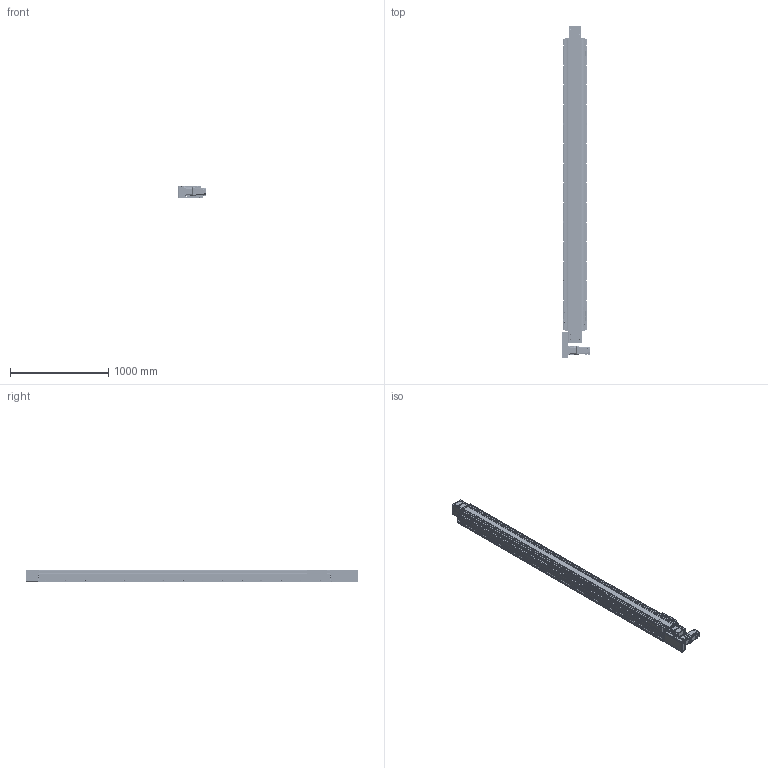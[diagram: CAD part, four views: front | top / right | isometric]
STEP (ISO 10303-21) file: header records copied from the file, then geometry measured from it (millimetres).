
FILE_DESCRIPTION(/* description */ (''),/* implementation_level */ '2;1');
FILE_NAME(/* name */ '\\192.168.0.160\disk1\HAN SHIN Master\B-설계부문\C-표준\B-2024년\BC02-표준도면\+로봇 개선표준도면\홈페이지 표준 도면\홈페이지 최종 작업 폴더\3D\HSB\HSB210\HSB210-R7G-N-2700-L.stp',/* time_stamp */ '2025-01-08T16:31:33+09:00',/* author */ ('user'),/* organization */ (''),/* preprocessor_version */ 'ST-DEVELOPER v18.1',/* originating_system */ 'Autodesk Inventor 2022',/* authorisation */ '');
FILE_SCHEMA (('AUTOMOTIVE_DESIGN { 1 0 10303 214 3 1 1 }'));
Products named in the file (37): HSB210-R7G-N-0500-L; HSB210 BASE - 2000ST; HSB210 FORNT HOUSUNG-Connecting Shaft; HSB160 SHAFT-1; HSB160 BEARING OVER; HSB210 FRONT COVER; REAR HOUSUNG-1-R1; HSB160 ARC COVER; HSB160 REAR SHAFT-2; REAR SHAFT--2; 6004ZZ; 6004ZZ Outer ring; 6004ZZ Shield1; 6004ZZ Inner ring; 6004ZZ Ball; 6004ZZ Shield2; UPCOVER; SIDE COVER; PGX90-H-1_3; HR200 SENSOR DOG; hsr_ftht_A-M6F_grease_nipple_joint; NIPPLE CAP(신규); SENSOR BRK(EE-SX674A); EE_SX674A; 6308ZZ; TENSION PLATE; HSB210 END COVER-1; HG90STOPPER - 27L; HSB210 TABLE (TEST); hg-kr73_; HSB210 L MOTOR PLATE ASSY; HG200 750W LR MOTOR PLATE-사출; 750W MOTOR PLATE; HR180,200-ACRYL COVER 2; HR180,200-ACRYL COVER; HG200-R L-BELT COVER; HR180,200-ACRYL COVER 3
Assembly tree (70 placements, depth 3):
  HSB210-R7G-N-0500-L
    HSB210 BASE - 2000ST
    HSB210 FRONT COVER  x2
    HSB210 FORNT HOUSUNG-Connecting Shaft
    HSB160 SHAFT-1
    HSB160 BEARING OVER
    HSB160 ARC COVER  x4
    REAR HOUSUNG-1-R1
    HSB160 REAR SHAFT-2
    REAR SHAFT--2
    6004ZZ  x2
      6004ZZ Outer ring
      6004ZZ Shield1
      6004ZZ Inner ring
      6004ZZ Ball
      6004ZZ Shield2
    TENSION PLATE  x2
    UPCOVER
    SIDE COVER  x2
    PGX90-H-1_3
    HG90STOPPER - 27L  x4
    HR200 SENSOR DOG
    SENSOR BRK(EE-SX674A)  x3
    EE_SX674A  x3
    NIPPLE CAP(신규)  x4
    hsr_ftht_A-M6F_grease_nipple_joint  x4
    6308ZZ  x2
    HSB210 END COVER-1
    HSB210 TABLE (TEST)
    hg-kr73_
    HSB210 L MOTOR PLATE ASSY
      HG200 750W LR MOTOR PLATE-사출
      750W MOTOR PLATE
      HR180,200-ACRYL COVER 2
      HR180,200-ACRYL COVER 3  x2
      HR180,200-ACRYL COVER
      HG200-R L-BELT COVER
Bounding box: 284.5 x 3385.5 x 130 mm (x, y, z)
Volume: 28502277.4 mm3; surface area: 6158741.2 mm2
Topology: 131 solids, 133 shells, 8225 faces, 22973 edges, 15161 vertices
Faces by surface type: plane 6186, cylinder 1463, cone 408, sphere 84, torus 59, bspline 25
Full cylindrical faces by diameter (mm): 2.013 x2, 2.459 x48, 3 x8, 3.2 x4, 3.242 x58, 3.4 x20, 3.5 x6, 4.134 x2, 4.2 x16, 4.5 x36, 4.917 x36, 5 x56, 5.1 x1, 5.5 x13, 5.6 x4, 5.9 x4, 6 x15, 6.5 x9, 6.6 x8, 6.647 x60, 6.8 x9, 7 x20, 7.6 x4, 8 x13, 8.433 x2, 9 x46, 9.5 x7, 10 x5, 10.106 x30, 11 x20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
Entity records: 183072 total; most frequent: CARTESIAN_POINT 35440, ORIENTED_EDGE 30592, DIRECTION 29466, EDGE_CURVE 15296, LINE 11698, VECTOR 11698, VERTEX_POINT 10192, AXIS2_PLACEMENT_3D 8884
